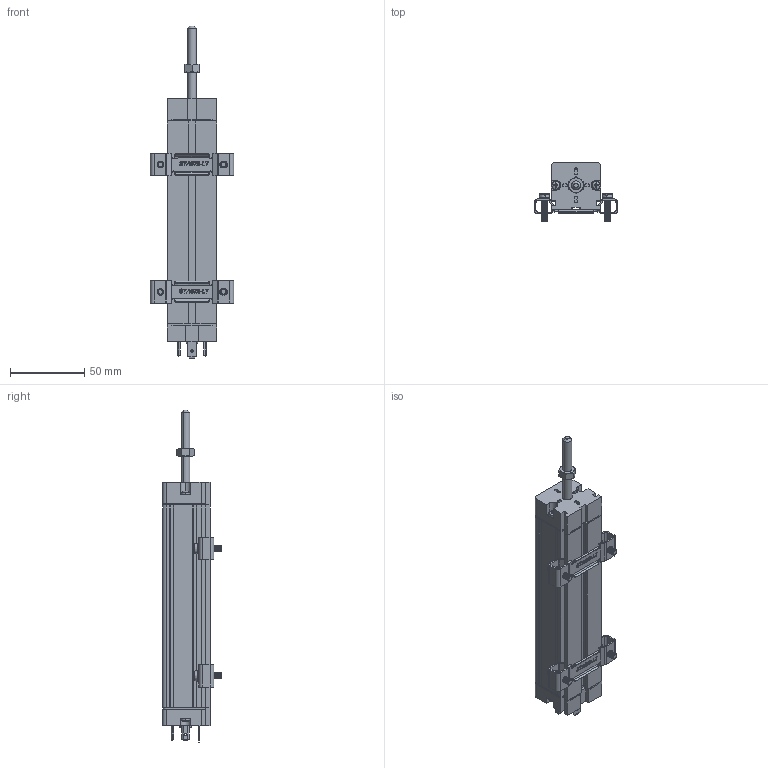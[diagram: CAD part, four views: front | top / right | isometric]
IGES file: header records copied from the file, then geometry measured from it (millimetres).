
Start section: SolidWorks IGES file using analytic representation for surfaces
Global section: file name: \\srv4gefran\dir-cat\Disegni Catalogo\Posizione\LTV2\LT-M-0100-S\3D\Solidworks 2012\LT-M-0100-S\LT-M-0100-S.IGS; native system: SolidWorks 2015; preprocessor: SolidWorks 2015; author: Loda-w1; date: 160531.161043; units: millimetre
Bounding box: 56 x 39.7 x 223.43 mm (x, y, z)
Surface area: 52292.8 mm2 (no closed solid volume)
Topology: 0 solids, 0 shells, 2340 faces, 43820 edges, 55800 vertices
Faces by surface type: revolution 1423, bspline 917
